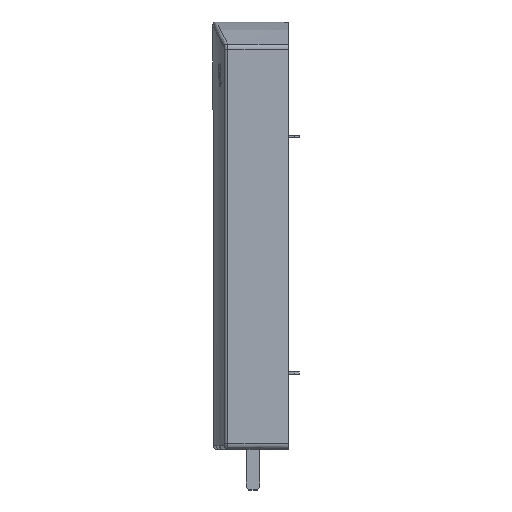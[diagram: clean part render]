
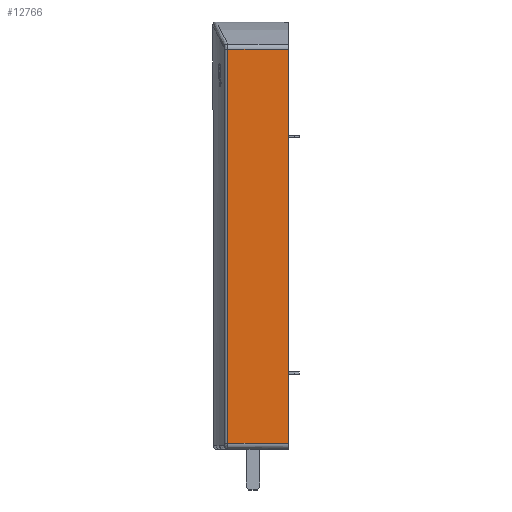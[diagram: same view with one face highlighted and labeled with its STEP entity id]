
A CAD part, top view. The second image highlights one B-rep face of the part: STEP entity #12766.
In plain terms, the highlighted planar face has unit normal (0, 0, 1).
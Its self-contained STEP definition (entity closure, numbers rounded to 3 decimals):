
#123 = CARTESIAN_POINT ( 'NONE',  ( 0., 207.096, 22.754 ) ) ;
#212 = CARTESIAN_POINT ( 'NONE',  ( -41.001, 207.096, 22.754 ) ) ;
#213 = FACE_OUTER_BOUND ( 'NONE', #7508, .T. ) ;
#221 = PLANE ( 'NONE',  #1231 ) ;
#224 = DIRECTION ( 'NONE',  ( 0., 0., 1. ) ) ;
#225 = DIRECTION ( 'NONE',  ( -1., 0., 0. ) ) ;
#1231 = AXIS2_PLACEMENT_3D ( 'NONE', #212, #224, #225 ) ;
#2196 = EDGE_CURVE ( 'NONE', #13789, #12628, #8966, .T. ) ;
#4521 = EDGE_CURVE ( 'NONE', #13832, #13789, #6813, .T. ) ;
#4523 = EDGE_CURVE ( 'NONE', #13835, #12628, #6817, .T. ) ;
#4524 = EDGE_CURVE ( 'NONE', #13832, #13835, #6829, .T. ) ;
#4836 = ORIENTED_EDGE ( 'NONE', *, *, #4521, .T. ) ;
#4837 = ORIENTED_EDGE ( 'NONE', *, *, #2196, .T. ) ;
#4838 = ORIENTED_EDGE ( 'NONE', *, *, #4523, .F. ) ;
#4839 = ORIENTED_EDGE ( 'NONE', *, *, #4524, .F. ) ;
#5973 = CARTESIAN_POINT ( 'NONE',  ( 0., -6.062, 22.754 ) ) ;
#6013 = CARTESIAN_POINT ( 'NONE',  ( -32.709, -6.062, 22.754 ) ) ;
#6016 = CARTESIAN_POINT ( 'NONE',  ( -32.709, 207.096, 22.754 ) ) ;
#6813 = LINE ( 'NONE', #6814, #10303 ) ;
#6814 = CARTESIAN_POINT ( 'NONE',  ( -41.001, -6.062, 22.754 ) ) ;
#6815 = DIRECTION ( 'NONE',  ( 1., 0., 0. ) ) ;
#6817 = LINE ( 'NONE', #6827, #10301 ) ;
#6827 = CARTESIAN_POINT ( 'NONE',  ( -41.001, 207.096, 22.754 ) ) ;
#6828 = DIRECTION ( 'NONE',  ( 1., 0., 0. ) ) ;
#6829 = LINE ( 'NONE', #6830, #10305 ) ;
#6830 = CARTESIAN_POINT ( 'NONE',  ( -32.709, 207.096, 22.754 ) ) ;
#6831 = DIRECTION ( 'NONE',  ( 0., 1., 0. ) ) ;
#7508 = EDGE_LOOP ( 'NONE', ( #4836, #4837, #4838, #4839 ) ) ;
#8943 = CARTESIAN_POINT ( 'NONE',  ( 0., 207.096, 22.754 ) ) ;
#8966 = LINE ( 'NONE', #8943, #9748 ) ;
#8971 = DIRECTION ( 'NONE',  ( 0., 1., 0. ) ) ;
#9748 = VECTOR ( 'NONE', #8971, 1000. ) ;
#10301 = VECTOR ( 'NONE', #6828, 1000. ) ;
#10303 = VECTOR ( 'NONE', #6815, 1000. ) ;
#10305 = VECTOR ( 'NONE', #6831, 1000. ) ;
#12628 = VERTEX_POINT ( 'NONE', #123 ) ;
#12766 = ADVANCED_FACE ( 'NONE', ( #213 ), #221, .T. ) ;
#13789 = VERTEX_POINT ( 'NONE', #5973 ) ;
#13832 = VERTEX_POINT ( 'NONE', #6013 ) ;
#13835 = VERTEX_POINT ( 'NONE', #6016 ) ;
